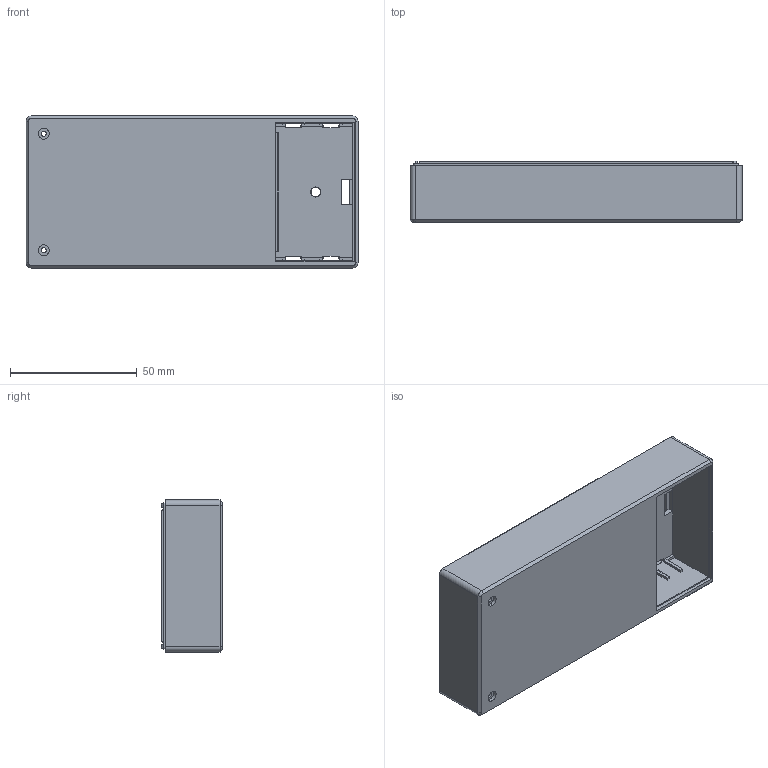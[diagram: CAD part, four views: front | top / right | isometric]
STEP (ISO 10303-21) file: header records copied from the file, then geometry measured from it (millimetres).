
FILE_DESCRIPTION (( 'STEP AP214' ), '1' );
FILE_NAME ('Cos PP29.STEP', '2018-08-07T15:40:58', ( 'aaa' ), ( '' ), 'SwSTEP 2.0', 'SolidWorks 2013', '' );
FILE_SCHEMA (( 'AUTOMOTIVE_DESIGN' ));
Length unit declared in the file: millimetre
Products named in the file (1): Cos PP29
Bounding box: 131 x 24.1 x 60 mm (x, y, z)
Volume: 39016.1 mm3; surface area: 35523.2 mm2
Topology: 1 solids, 1 shells, 171 faces, 478 edges, 312 vertices
Faces by surface type: plane 129, cylinder 36, cone 6
Entity records: 5572 total; most frequent: CARTESIAN_POINT 962, ORIENTED_EDGE 956, DIRECTION 902, EDGE_CURVE 478, VECTOR 398, LINE 398, VERTEX_POINT 312, AXIS2_PLACEMENT_3D 252
